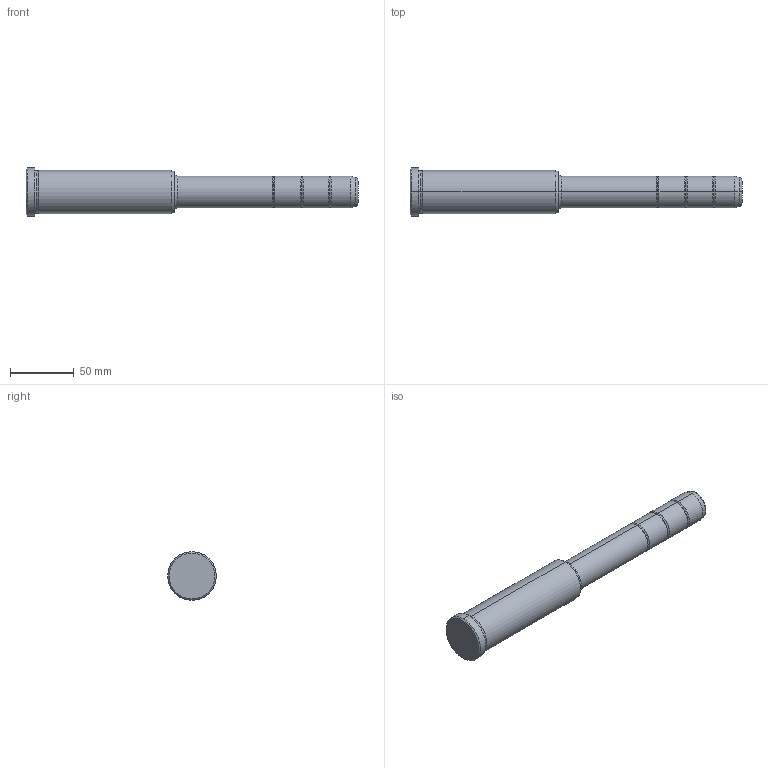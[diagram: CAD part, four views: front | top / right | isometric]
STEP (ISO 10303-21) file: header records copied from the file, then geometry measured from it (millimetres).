
FILE_DESCRIPTION(('CATIA V5 STEP Exchange'),'2;1');
FILE_NAME('C:\Users\Utente\Desktop\IO LAVORO\3D X SITO CF\X SITO\PLASTICA\351\351-25X116X260.stp','2021-09-07T11:51:38+00:00',('none'),('none'),'CATIA Version 5 Release 20 GA (IN-10)','CATIA V5 STEP AP203','none');
FILE_SCHEMA(('CONFIG_CONTROL_DESIGN'));
Length unit declared in the file: millimetre
Products named in the file (1): 351-25X116X260
Bounding box: 260 x 38 x 38 mm (x, y, z)
Volume: 176707.7 mm3; surface area: 25797.6 mm2
Topology: 1 solids, 1 shells, 42 faces, 118 edges, 80 vertices
Faces by surface type: torus 20, cylinder 12, cone 6, plane 4
Entity records: 1472 total; most frequent: CARTESIAN_POINT 353, ORIENTED_EDGE 236, DIRECTION 194, AXIS2_PLACEMENT_3D 135, EDGE_CURVE 118, CIRCLE 92, VERTEX_POINT 80, EDGE_LOOP 44
